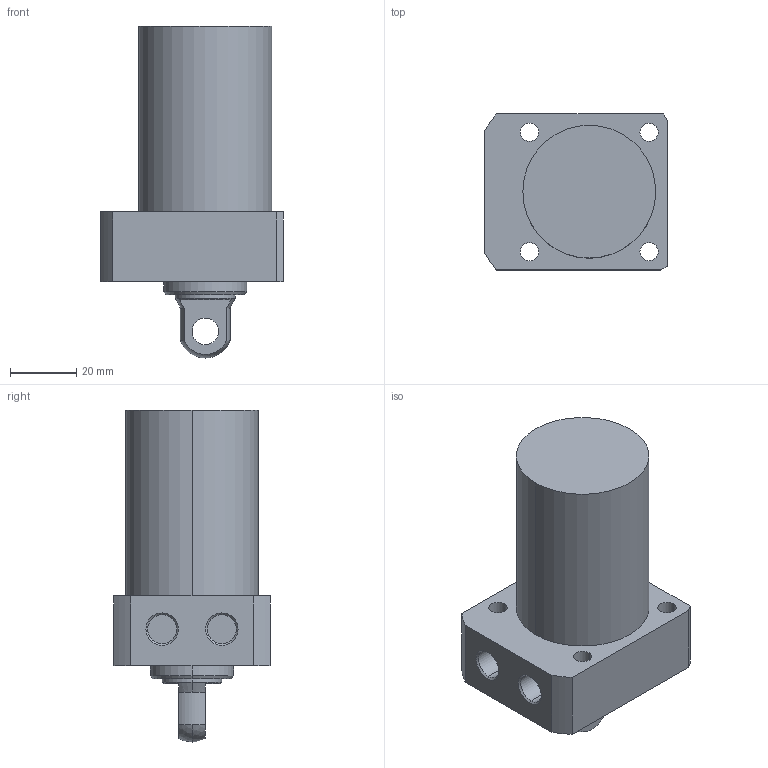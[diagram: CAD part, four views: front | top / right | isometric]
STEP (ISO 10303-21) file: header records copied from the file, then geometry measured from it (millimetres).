
FILE_DESCRIPTION (( 'STEP AP203' ), '1' );
FILE_NAME ('CLL-R040-CP-045.STEP', '2017-05-10T11:28:16', ( '' ), ( '' ), 'SwSTEP 2.0', 'SolidWorks 2015', '' );
FILE_SCHEMA (( 'CONFIG_CONTROL_DESIGN' ));
Length unit declared in the file: millimetre
Products named in the file (1): CLL-R040-CP-045
Bounding box: 55 x 47 x 100 mm (x, y, z)
Volume: 124061.6 mm3; surface area: 19534.4 mm2
Topology: 1 solids, 1 shells, 57 faces, 135 edges, 87 vertices
Faces by surface type: cylinder 29, plane 18, cone 8, sphere 2
Entity records: 1770 total; most frequent: DIRECTION 319, CARTESIAN_POINT 292, ORIENTED_EDGE 270, EDGE_CURVE 135, AXIS2_PLACEMENT_3D 130, VERTEX_POINT 87, EDGE_LOOP 74, CIRCLE 72
